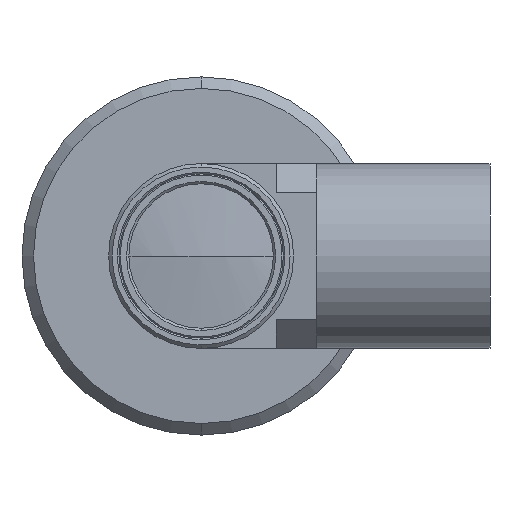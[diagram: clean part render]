
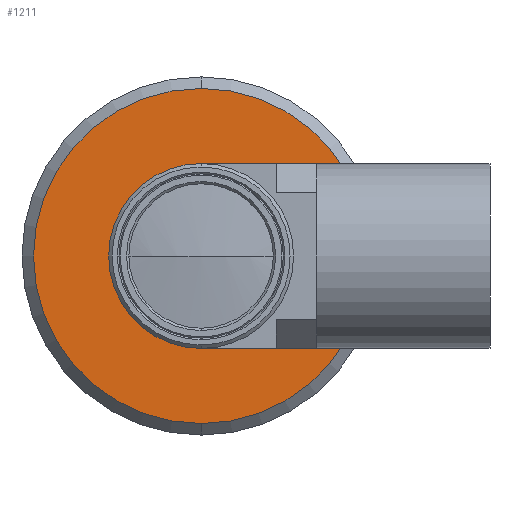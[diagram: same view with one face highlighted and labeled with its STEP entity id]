
A CAD part, left-side view. The second image highlights one B-rep face of the part: STEP entity #1211.
In plain terms, the highlighted planar face has unit normal (-1, 0, 0).
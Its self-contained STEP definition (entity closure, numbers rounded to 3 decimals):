
#120 = FACE_OUTER_BOUND ( 'NONE', #211, .T. ) ;
#125 = AXIS2_PLACEMENT_3D ( 'NONE', #1555, #326, #1768 ) ;
#131 = DIRECTION ( 'NONE',  ( -1., 0., 0. ) ) ;
#211 = EDGE_LOOP ( 'NONE', ( #542, #1859 ) ) ;
#326 = DIRECTION ( 'NONE',  ( -1., 0., 0. ) ) ;
#520 = AXIS2_PLACEMENT_3D ( 'NONE', #2107, #866, #2333 ) ;
#524 = CARTESIAN_POINT ( 'NONE',  ( 57.007, 0., 14.5 ) ) ;
#542 = ORIENTED_EDGE ( 'NONE', *, *, #1039, .T. ) ;
#614 = FACE_BOUND ( 'NONE', #2638, .T. ) ;
#713 = CIRCLE ( 'NONE', #520, 8. ) ;
#719 = AXIS2_PLACEMENT_3D ( 'NONE', #1382, #131, #1590 ) ;
#828 = CARTESIAN_POINT ( 'NONE',  ( 57.007, 8., 0. ) ) ;
#866 = DIRECTION ( 'NONE',  ( -1., 0., 0. ) ) ;
#1027 = DIRECTION ( 'NONE',  ( 0., 0., -1. ) ) ;
#1039 = EDGE_CURVE ( 'NONE', #1848, #2592, #2061, .T. ) ;
#1043 = CARTESIAN_POINT ( 'NONE',  ( 57.007, 0., 0. ) ) ;
#1211 = ADVANCED_FACE ( 'NONE', ( #614, #120 ), #2075, .F. ) ;
#1250 = DIRECTION ( 'NONE',  ( 0., 0., 1. ) ) ;
#1259 = ORIENTED_EDGE ( 'NONE', *, *, #1939, .F. ) ;
#1260 = EDGE_CURVE ( 'NONE', #2592, #1848, #2702, .T. ) ;
#1347 = ORIENTED_EDGE ( 'NONE', *, *, #1739, .F. ) ;
#1382 = CARTESIAN_POINT ( 'NONE',  ( 57.007, 0., 0. ) ) ;
#1555 = CARTESIAN_POINT ( 'NONE',  ( 57.007, 0., 0. ) ) ;
#1590 = DIRECTION ( 'NONE',  ( 0., 0., 1. ) ) ;
#1739 = EDGE_CURVE ( 'NONE', #2375, #1909, #2315, .T. ) ;
#1768 = DIRECTION ( 'NONE',  ( 0., 0., 1. ) ) ;
#1848 = VERTEX_POINT ( 'NONE', #2048 ) ;
#1859 = ORIENTED_EDGE ( 'NONE', *, *, #1260, .T. ) ;
#1909 = VERTEX_POINT ( 'NONE', #2492 ) ;
#1939 = EDGE_CURVE ( 'NONE', #1909, #2375, #713, .T. ) ;
#2048 = CARTESIAN_POINT ( 'NONE',  ( 57.007, 0., -14.5 ) ) ;
#2061 = CIRCLE ( 'NONE', #125, 14.5 ) ;
#2075 = PLANE ( 'NONE',  #2242 ) ;
#2107 = CARTESIAN_POINT ( 'NONE',  ( 57.007, 0., 0. ) ) ;
#2242 = AXIS2_PLACEMENT_3D ( 'NONE', #828, #2295, #1027 ) ;
#2295 = DIRECTION ( 'NONE',  ( 1., 0., 0. ) ) ;
#2315 = CIRCLE ( 'NONE', #719, 8. ) ;
#2333 = DIRECTION ( 'NONE',  ( 0., 0., 1. ) ) ;
#2375 = VERTEX_POINT ( 'NONE', #2500 ) ;
#2492 = CARTESIAN_POINT ( 'NONE',  ( 57.007, 0., -8. ) ) ;
#2500 = CARTESIAN_POINT ( 'NONE',  ( 57.007, 0., 8. ) ) ;
#2516 = DIRECTION ( 'NONE',  ( -1., 0., 0. ) ) ;
#2592 = VERTEX_POINT ( 'NONE', #524 ) ;
#2638 = EDGE_LOOP ( 'NONE', ( #1347, #1259 ) ) ;
#2652 = AXIS2_PLACEMENT_3D ( 'NONE', #1043, #2516, #1250 ) ;
#2702 = CIRCLE ( 'NONE', #2652, 14.5 ) ;
